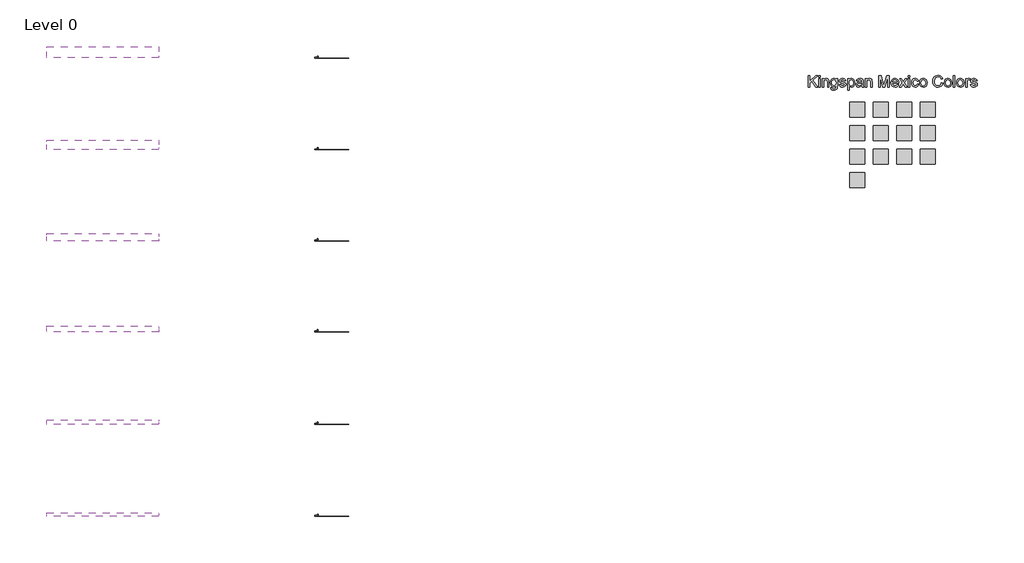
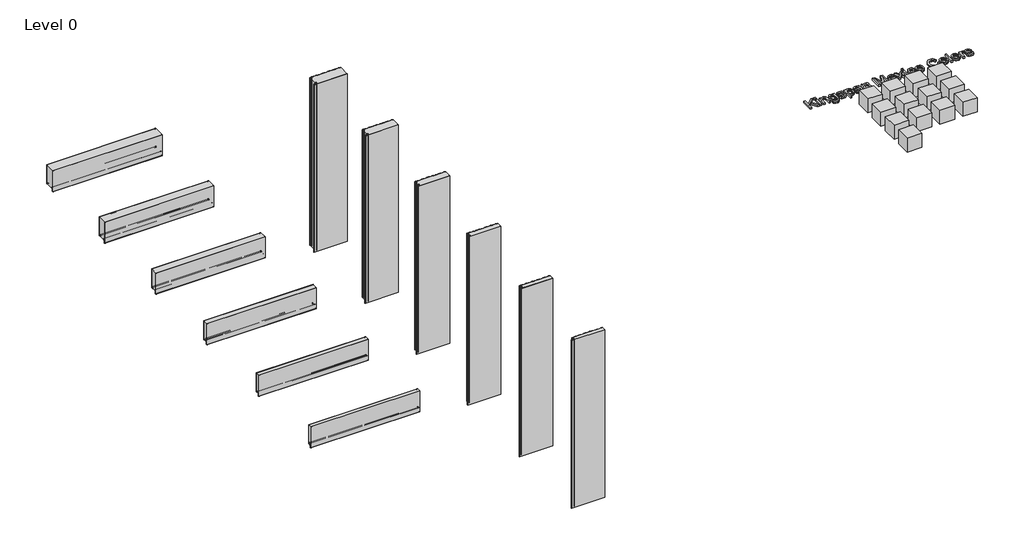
# One storey, incomplete: 14 proxies, 12 plates.
"""IFC4 building model written with IfcOpenShell, lengths in millimetres."""

from ifc_helpers import new_model, si_unit, origin, place, context, project, spatial, transform, mapped, element, save
from components import generic_models_94ed907e, ks_colour_sample_ks_colour_sample_0243efec, hz_050mm_dce8ea4b, hz_060mm_f28033a6, hz_075mm_108744e1, hz_100mm_8f397e4b, hz_125mm_eea721eb, hz_150mm_f9b8a2df, vt_050mm_d62c415d, vt_060mm_0d96d6be, vt_075mm_9d33335d, vt_100mm_dac5878b, vt_125mm_141aa0a6, vt_150mm_fdf00c52

model = new_model("IFC4")

# Units and contexts
model_context = context("Model", 3, world=origin())
ifc_project = project(units=[si_unit("LENGTHUNIT", "METRE", prefix="MILLI")], contexts=[model_context])

# Site, building, storey
site = spatial("IfcSite", under=ifc_project)
building = spatial("IfcBuilding", under=site)
storey = spatial("IfcBuildingStorey", under=building, Name="Level 0", Elevation=0.0)

# Proxies
placement = place(None, origin())
generic_models_shape = generic_models_94ed907e(model_context)
element("IfcBuildingElementProxy", 1, Name="KIP-MX_ColourRange_English : KIP-MX_ColourRange_English", ObjectType="KIP-MX_ColourRange_English : KIP-MX_ColourRange_English", at=placement, inside=storey, context=model_context, shape_type="MappedRepresentation", body=[
    mapped(generic_models_shape, transform((1966.0629502, 11802.7493823, 0.0), x_axis=(1.0, 0.0, 0.0), y_axis=(0.0, 1.0, 0.0), z_axis=(0.0, 0.0, 1.0))),
])
ks_colour_sample_ks_colour_sample_shape = ks_colour_sample_ks_colour_sample_0243efec(model_context)
element("IfcBuildingElementProxy", 2, Name="KS_Colour Sample : KS_Colour Sample", ObjectType="KS_Colour Sample : KS_Colour Sample", at=placement, inside=storey, context=model_context, shape_type="MappedRepresentation", body=[
    mapped(ks_colour_sample_ks_colour_sample_shape, transform((1501.0629502, 13781.2299273, 0.0), x_axis=(1.0, 0.0, 0.0), y_axis=(0.0, 1.0, 0.0), z_axis=(0.0, 0.0, 1.0))),
])
element("IfcBuildingElementProxy", 3, Name="KS_Colour Sample : KS_Colour Sample", ObjectType="KS_Colour Sample : KS_Colour Sample", at=placement, inside=storey, context=model_context, shape_type="MappedRepresentation", body=[
    mapped(ks_colour_sample_ks_colour_sample_shape, transform((1811.0629502, 13781.2299273, 0.0), x_axis=(1.0, 0.0, 0.0), y_axis=(0.0, 1.0, 0.0), z_axis=(0.0, 0.0, 1.0))),
])
element("IfcBuildingElementProxy", 4, Name="KS_Colour Sample : KS_Colour Sample", ObjectType="KS_Colour Sample : KS_Colour Sample", at=placement, inside=storey, context=model_context, shape_type="MappedRepresentation", body=[
    mapped(ks_colour_sample_ks_colour_sample_shape, transform((2121.0629502, 13781.2299273, 0.0), x_axis=(1.0, 0.0, 0.0), y_axis=(0.0, 1.0, 0.0), z_axis=(0.0, 0.0, 1.0))),
])
element("IfcBuildingElementProxy", 5, Name="KS_Colour Sample : KS_Colour Sample", ObjectType="KS_Colour Sample : KS_Colour Sample", at=placement, inside=storey, context=model_context, shape_type="MappedRepresentation", body=[
    mapped(ks_colour_sample_ks_colour_sample_shape, transform((2431.0629502, 13781.2299273, 0.0), x_axis=(1.0, 0.0, 0.0), y_axis=(0.0, 1.0, 0.0), z_axis=(0.0, 0.0, 1.0))),
])
element("IfcBuildingElementProxy", 6, Name="KS_Colour Sample : KS_Colour Sample", ObjectType="KS_Colour Sample : KS_Colour Sample", at=placement, inside=storey, context=model_context, shape_type="MappedRepresentation", body=[
    mapped(ks_colour_sample_ks_colour_sample_shape, transform((1501.0629502, 13471.2299273, 0.0), x_axis=(1.0, 0.0, 0.0), y_axis=(0.0, 1.0, 0.0), z_axis=(0.0, 0.0, 1.0))),
])
element("IfcBuildingElementProxy", 7, Name="KS_Colour Sample : KS_Colour Sample", ObjectType="KS_Colour Sample : KS_Colour Sample", at=placement, inside=storey, context=model_context, shape_type="MappedRepresentation", body=[
    mapped(ks_colour_sample_ks_colour_sample_shape, transform((1811.0629502, 13471.2299273, 0.0), x_axis=(1.0, 0.0, 0.0), y_axis=(0.0, 1.0, 0.0), z_axis=(0.0, 0.0, 1.0))),
])
element("IfcBuildingElementProxy", 8, Name="KS_Colour Sample : KS_Colour Sample", ObjectType="KS_Colour Sample : KS_Colour Sample", at=placement, inside=storey, context=model_context, shape_type="MappedRepresentation", body=[
    mapped(ks_colour_sample_ks_colour_sample_shape, transform((2121.0629502, 13471.2299273, 0.0), x_axis=(1.0, 0.0, 0.0), y_axis=(0.0, 1.0, 0.0), z_axis=(0.0, 0.0, 1.0))),
])
element("IfcBuildingElementProxy", 9, Name="KS_Colour Sample : KS_Colour Sample", ObjectType="KS_Colour Sample : KS_Colour Sample", at=placement, inside=storey, context=model_context, shape_type="MappedRepresentation", body=[
    mapped(ks_colour_sample_ks_colour_sample_shape, transform((2431.0629502, 13471.2299273, 0.0), x_axis=(1.0, 0.0, 0.0), y_axis=(0.0, 1.0, 0.0), z_axis=(0.0, 0.0, 1.0))),
])
element("IfcBuildingElementProxy", 10, Name="KS_Colour Sample : KS_Colour Sample", ObjectType="KS_Colour Sample : KS_Colour Sample", at=placement, inside=storey, context=model_context, shape_type="MappedRepresentation", body=[
    mapped(ks_colour_sample_ks_colour_sample_shape, transform((1501.0629502, 13161.2299273, 0.0), x_axis=(1.0, 0.0, 0.0), y_axis=(0.0, 1.0, 0.0), z_axis=(0.0, 0.0, 1.0))),
])
element("IfcBuildingElementProxy", 11, Name="KS_Colour Sample : KS_Colour Sample", ObjectType="KS_Colour Sample : KS_Colour Sample", at=placement, inside=storey, context=model_context, shape_type="MappedRepresentation", body=[
    mapped(ks_colour_sample_ks_colour_sample_shape, transform((1811.0629502, 13161.2299273, 0.0), x_axis=(1.0, 0.0, 0.0), y_axis=(0.0, 1.0, 0.0), z_axis=(0.0, 0.0, 1.0))),
])
element("IfcBuildingElementProxy", 12, Name="KS_Colour Sample : KS_Colour Sample", ObjectType="KS_Colour Sample : KS_Colour Sample", at=placement, inside=storey, context=model_context, shape_type="MappedRepresentation", body=[
    mapped(ks_colour_sample_ks_colour_sample_shape, transform((2121.0629502, 13161.2299273, 0.0), x_axis=(1.0, 0.0, 0.0), y_axis=(0.0, 1.0, 0.0), z_axis=(0.0, 0.0, 1.0))),
])
element("IfcBuildingElementProxy", 13, Name="KS_Colour Sample : KS_Colour Sample", ObjectType="KS_Colour Sample : KS_Colour Sample", at=placement, inside=storey, context=model_context, shape_type="MappedRepresentation", body=[
    mapped(ks_colour_sample_ks_colour_sample_shape, transform((2431.0629502, 13161.2299273, 0.0), x_axis=(1.0, 0.0, 0.0), y_axis=(0.0, 1.0, 0.0), z_axis=(0.0, 0.0, 1.0))),
])
element("IfcBuildingElementProxy", 14, Name="KS_Colour Sample : KS_Colour Sample", ObjectType="KS_Colour Sample : KS_Colour Sample", at=placement, inside=storey, context=model_context, shape_type="MappedRepresentation", body=[
    mapped(ks_colour_sample_ks_colour_sample_shape, transform((1501.0629502, 12851.2299273, 0.0), x_axis=(1.0, 0.0, 0.0), y_axis=(0.0, 1.0, 0.0), z_axis=(0.0, 0.0, 1.0))),
])

# Plates
hz_050mm_shape = hz_050mm_dce8ea4b(model_context)
element("IfcPlate", 15, ObjectType="KIP-MEX-KSS-1067-R19-CP-Hz-OP_SL : Hz 050mm", at=placement, inside=storey, context=model_context, shape_type="MappedRepresentation", body=[
    mapped(hz_050mm_shape, transform((-8438.7250935, 8468.7418563, 2134.0), x_axis=(1.0, 0.0, 0.0), y_axis=(0.0, 1.0, 0.0), z_axis=(0.0, 0.0, 1.0))),
])
hz_060mm_shape = hz_060mm_f28033a6(model_context)
element("IfcPlate", 16, ObjectType="KIP-MEX-KSS-1067-R19-CP-Hz-OP_SL : Hz 060mm", at=placement, inside=storey, context=model_context, shape_type="MappedRepresentation", body=[
    mapped(hz_060mm_shape, transform((-8438.7250935, 9693.0962077, 2134.0), x_axis=(1.0, 0.0, 0.0), y_axis=(0.0, 1.0, 0.0), z_axis=(0.0, 0.0, 1.0))),
])
hz_075mm_shape = hz_075mm_108744e1(model_context)
element("IfcPlate", 17, ObjectType="KIP-MEX-KSS-1067-R19-CP-Hz-OP_SL : Hz 075mm", at=placement, inside=storey, context=model_context, shape_type="MappedRepresentation", body=[
    mapped(hz_075mm_shape, transform((-8438.7250935, 10927.2962077, 2134.0), x_axis=(1.0, 0.0, 0.0), y_axis=(0.0, 1.0, 0.0), z_axis=(0.0, 0.0, 1.0))),
])
hz_100mm_shape = hz_100mm_8f397e4b(model_context)
element("IfcPlate", 18, ObjectType="KIP-MEX-KSS-1067-R19-CP-Hz-OP_SL : Hz 100mm", at=placement, inside=storey, context=model_context, shape_type="MappedRepresentation", body=[
    mapped(hz_100mm_shape, transform((-8438.7250935, 12150.3733554, 2134.0), x_axis=(1.0, 0.0, 0.0), y_axis=(0.0, 1.0, 0.0), z_axis=(0.0, 0.0, 1.0))),
])
hz_125mm_shape = hz_125mm_eea721eb(model_context)
element("IfcPlate", 19, ObjectType="KIP-MEX-KSS-1067-R19-CP-Hz-OP_SL : Hz 125mm", at=placement, inside=storey, context=model_context, shape_type="MappedRepresentation", body=[
    mapped(hz_125mm_shape, transform((-8438.7250935, 13377.5488626, 2134.0), x_axis=(1.0, 0.0, 0.0), y_axis=(0.0, 1.0, 0.0), z_axis=(0.0, 0.0, 1.0))),
])
hz_150mm_shape = hz_150mm_f9b8a2df(model_context)
element("IfcPlate", 20, ObjectType="KIP-MEX-KSS-1067-R19-CP-Hz-OP_SL : Hz 150mm", at=placement, inside=storey, context=model_context, shape_type="MappedRepresentation", body=[
    mapped(hz_150mm_shape, transform((-8438.7250935, 14614.4207339, 2134.0), x_axis=(1.0, 0.0, 0.0), y_axis=(0.0, 1.0, 0.0), z_axis=(0.0, 0.0, 1.0))),
])
vt_050mm_shape = vt_050mm_d62c415d(model_context)
element("IfcPlate", 21, ObjectType="KIP-MEX-KSS-1067-R19-CP-Vt-OP_SL : Vt 050mm", at=placement, inside=storey, context=model_context, shape_type="MappedRepresentation", body=[
    mapped(vt_050mm_shape, transform((-5405.4413834, 8468.7418563, 0.0), x_axis=(1.0, 0.0, 0.0), y_axis=(0.0, 1.0, 0.0), z_axis=(0.0, 0.0, 1.0))),
])
vt_060mm_shape = vt_060mm_0d96d6be(model_context)
element("IfcPlate", 22, ObjectType="KIP-MEX-KSS-1067-R19-CP-Vt-OP_SL : Vt 060mm", at=placement, inside=storey, context=model_context, shape_type="MappedRepresentation", body=[
    mapped(vt_060mm_shape, transform((-5405.4413834, 9693.0962077, 0.0), x_axis=(1.0, 0.0, 0.0), y_axis=(0.0, 1.0, 0.0), z_axis=(0.0, 0.0, 1.0))),
])
vt_075mm_shape = vt_075mm_9d33335d(model_context)
element("IfcPlate", 23, ObjectType="KIP-MEX-KSS-1067-R19-CP-Vt-OP_SL : Vt 075mm", at=placement, inside=storey, context=model_context, shape_type="MappedRepresentation", body=[
    mapped(vt_075mm_shape, transform((-5405.4413834, 10927.2962077, 0.0), x_axis=(1.0, 0.0, 0.0), y_axis=(0.0, 1.0, 0.0), z_axis=(0.0, 0.0, 1.0))),
])
vt_100mm_shape = vt_100mm_dac5878b(model_context)
element("IfcPlate", 24, ObjectType="KIP-MEX-KSS-1067-R19-CP-Vt-OP_SL : Vt 100mm", at=placement, inside=storey, context=model_context, shape_type="MappedRepresentation", body=[
    mapped(vt_100mm_shape, transform((-5405.4413834, 12150.3733554, 0.0), x_axis=(1.0, 0.0, 0.0), y_axis=(0.0, 1.0, 0.0), z_axis=(0.0, 0.0, 1.0))),
])
vt_125mm_shape = vt_125mm_141aa0a6(model_context)
element("IfcPlate", 25, ObjectType="KIP-MEX-KSS-1067-R19-CP-Vt-OP_SL : Vt 125mm", at=placement, inside=storey, context=model_context, shape_type="MappedRepresentation", body=[
    mapped(vt_125mm_shape, transform((-5405.4413834, 13377.5488626, 0.0), x_axis=(1.0, 0.0, 0.0), y_axis=(0.0, 1.0, 0.0), z_axis=(0.0, 0.0, 1.0))),
])
vt_150mm_shape = vt_150mm_fdf00c52(model_context)
element("IfcPlate", 26, ObjectType="KIP-MEX-KSS-1067-R19-CP-Vt-OP_SL : Vt 150mm", at=placement, inside=storey, context=model_context, shape_type="MappedRepresentation", body=[
    mapped(vt_150mm_shape, transform((-5405.4413834, 14609.2486688, 0.0), x_axis=(1.0, 0.0, 0.0), y_axis=(0.0, 1.0, 0.0), z_axis=(0.0, 0.0, 1.0))),
])

save(model, "model.ifc")
